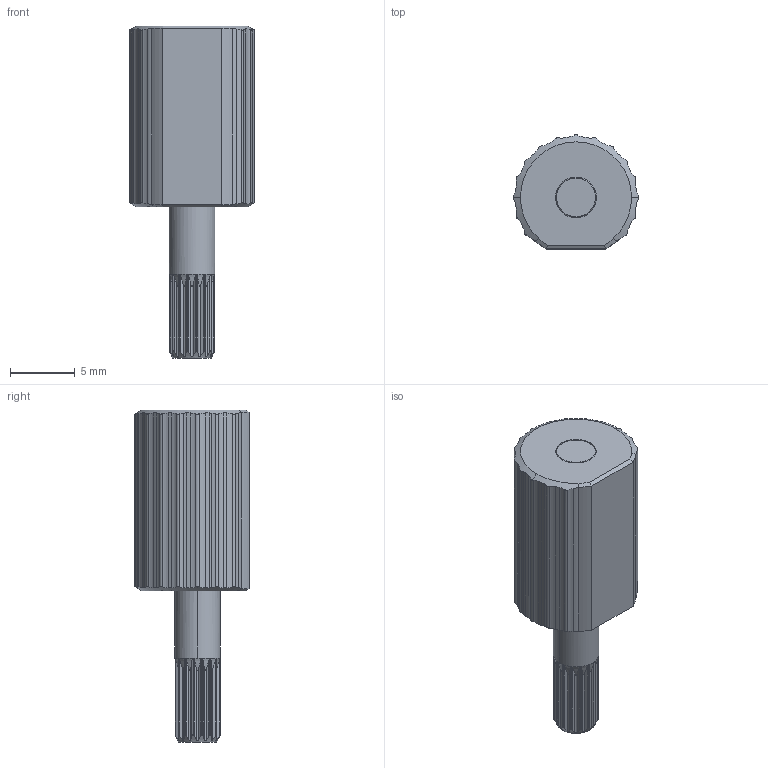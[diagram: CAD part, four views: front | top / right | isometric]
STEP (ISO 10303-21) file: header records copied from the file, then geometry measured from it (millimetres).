
FILE_DESCRIPTION (( 'STEP AP214' ), '1' );
FILE_NAME ('TI-320-X.XX-01.STEP', '2013-10-02T15:27:35', ( 'OSI_Administrator' ), ( '' ), 'SwSTEP 2.0', 'SolidWorks 2013', '' );
FILE_SCHEMA (( 'AUTOMOTIVE_DESIGN' ));
Length unit declared in the file: millimetre
Products named in the file (1): TI-320-X.XX-01
Bounding box: 9.71 x 8.84 x 25.7 mm (x, y, z)
Volume: 1054.8 mm3; surface area: 690.1 mm2
Topology: 1 solids, 1 shells, 205 faces, 588 edges, 387 vertices
Faces by surface type: cylinder 127, plane 43, cone 31, torus 4
Entity records: 7717 total; most frequent: CARTESIAN_POINT 2834, ORIENTED_EDGE 1176, DIRECTION 789, EDGE_CURVE 588, VERTEX_POINT 387, B_SPLINE_CURVE_WITH_KNOTS 301, AXIS2_PLACEMENT_3D 296, EDGE_LOOP 207
